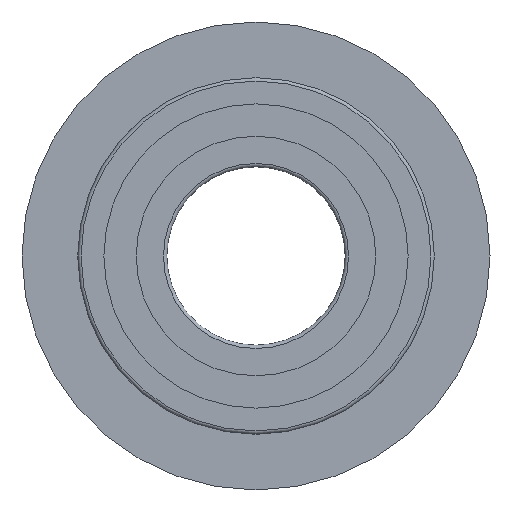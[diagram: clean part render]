
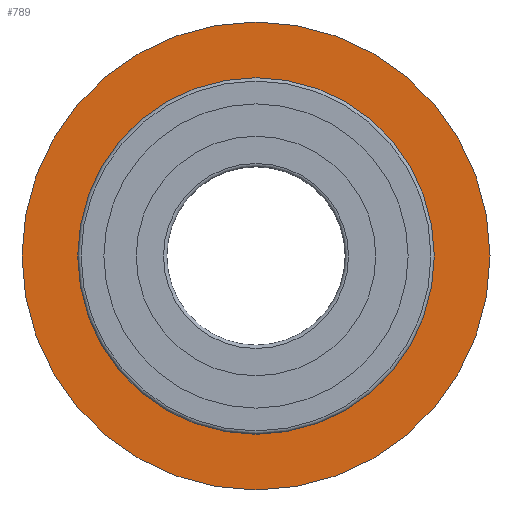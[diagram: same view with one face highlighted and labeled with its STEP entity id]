
A CAD part, left-side view. The second image highlights one B-rep face of the part: STEP entity #789.
In plain terms, the highlighted planar face has unit normal (-1, 0, 0).
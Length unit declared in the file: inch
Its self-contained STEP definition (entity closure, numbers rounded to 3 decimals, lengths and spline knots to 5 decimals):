
#762=CARTESIAN_POINT('',(112.91139,122.97152,0.));
#763=VERTEX_POINT('',#762);
#764=CARTESIAN_POINT('',(112.91139,112.47152,0.));
#765=DIRECTION('',(1.,0.,0.));
#766=DIRECTION('',(0.,1.,0.));
#767=AXIS2_PLACEMENT_3D('',#764,#765,#766);
#768=CIRCLE('',#767,10.5);
#769=EDGE_CURVE('',#763,#763,#768,.T.);
#770=ORIENTED_EDGE('',*,*,#769,.F.);
#771=EDGE_LOOP('',(#770));
#772=FACE_OUTER_BOUND('',#771,.T.);
#773=CARTESIAN_POINT('',(112.91139,120.47152,0.));
#774=VERTEX_POINT('',#773);
#775=CARTESIAN_POINT('',(112.91139,112.47152,0.));
#776=DIRECTION('',(1.,0.,0.));
#777=DIRECTION('',(0.,1.,0.));
#778=AXIS2_PLACEMENT_3D('',#775,#776,#777);
#779=CIRCLE('',#778,8.);
#780=EDGE_CURVE('',#774,#774,#779,.T.);
#781=ORIENTED_EDGE('',*,*,#780,.T.);
#782=EDGE_LOOP('',(#781));
#783=FACE_BOUND('',#782,.T.);
#784=CARTESIAN_POINT('',(112.91139,121.72152,0.));
#785=DIRECTION('',(-1.,0.,0.));
#786=DIRECTION('',(0.,-1.,0.));
#787=AXIS2_PLACEMENT_3D('',#784,#785,#786);
#788=PLANE('',#787);
#789=ADVANCED_FACE('',(#772,#783),#788,.T.);
